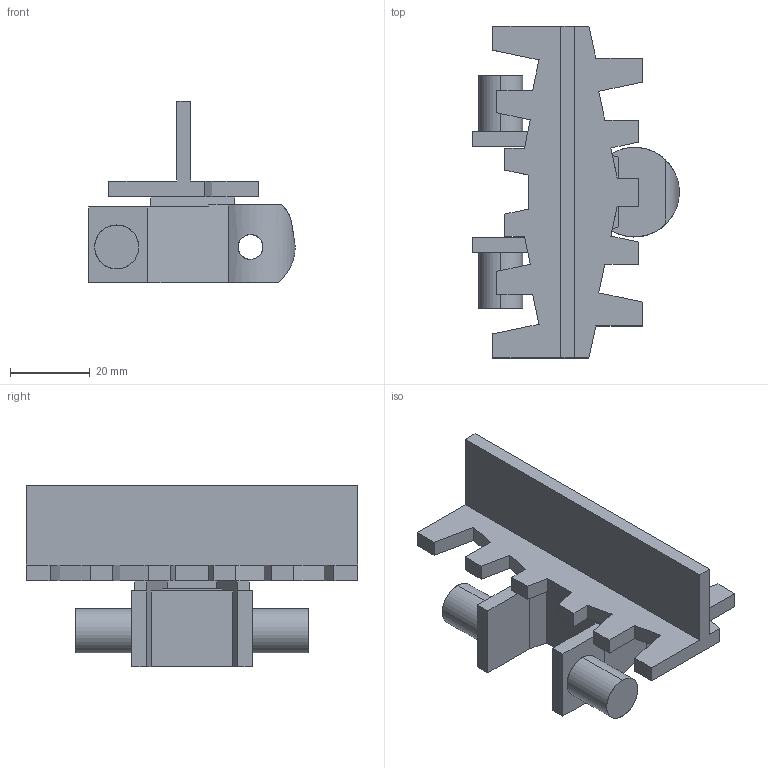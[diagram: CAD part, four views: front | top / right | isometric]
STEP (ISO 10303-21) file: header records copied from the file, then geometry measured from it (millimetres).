
FILE_DESCRIPTION (( 'STEP AP214' ), '1' );
FILE_NAME ('FMCT-5F-H20-P.STEP', '2011-09-28T08:33:55', ( '.' ), ( '' ), 'SwSTEP 2.0', 'SolidWorks 2010', '' );
FILE_SCHEMA (( 'AUTOMOTIVE_DESIGN' ));
Length unit declared in the file: millimetre
Products named in the file (1): FMCT-5F-H20-P
Bounding box: 51.65 x 83 x 45.5 mm (x, y, z)
Surface area: 15629.5 mm2 (no closed solid volume)
Topology: 0 solids, 89 shells, 92 faces, 507 edges, 501 vertices
Faces by surface type: plane 82, cylinder 10
Entity records: 6477 total; most frequent: CARTESIAN_POINT 2723, DIRECTION 670, ORIENTED_EDGE 513, EDGE_CURVE 507, VERTEX_POINT 501, VECTOR 460, LINE 460, AXIS2_PLACEMENT_3D 105
